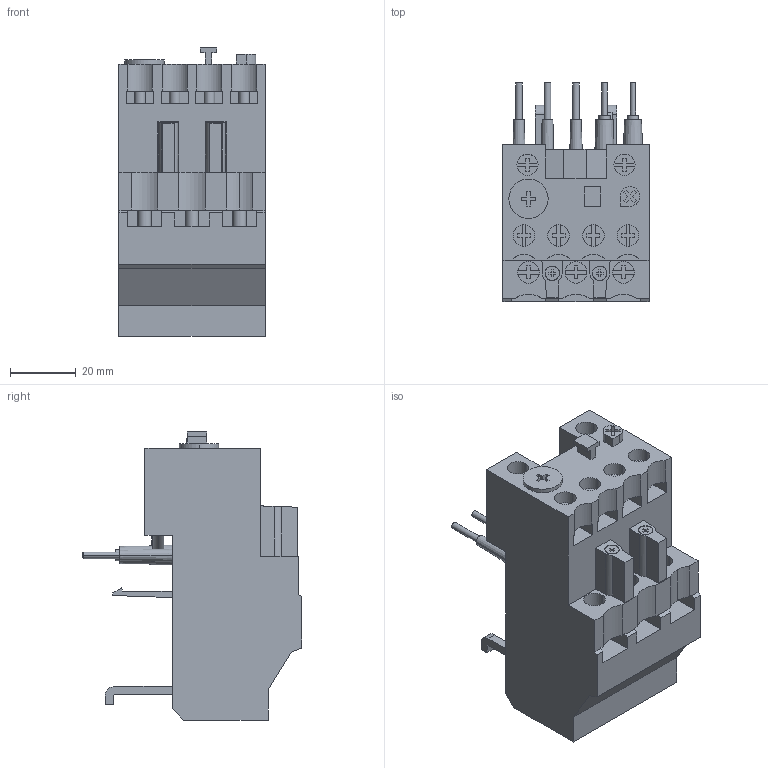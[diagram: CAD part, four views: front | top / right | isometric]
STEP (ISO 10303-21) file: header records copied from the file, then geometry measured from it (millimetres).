
FILE_DESCRIPTION( ( '' ), '1' );
FILE_NAME( '//expscmdclustefs.cadenas.external/client_exchange/iodir/jobs/output/wkb46357949_no0/STEP/278431_2_03.stp', '2012-06-26T13:34:07', ( '' ), ( '' ), ' ', ' ', ' ' );
FILE_SCHEMA( ( 'CONFIG_CONTROL_DESIGN' ) );
Length unit declared in the file: millimetre
Products named in the file (1): 1
Bounding box: 44.6 x 66.9 x 88 mm (x, y, z)
Volume: 121670.5 mm3; surface area: 24846.8 mm2
Topology: 1 solids, 1 shells, 386 faces, 1055 edges, 704 vertices
Faces by surface type: plane 304, cylinder 72, cone 10
Entity records: 12347 total; most frequent: CARTESIAN_POINT 2272, ORIENTED_EDGE 2110, DIRECTION 2021, EDGE_CURVE 1055, LINE 851, VECTOR 851, VERTEX_POINT 704, AXIS2_PLACEMENT_3D 585
